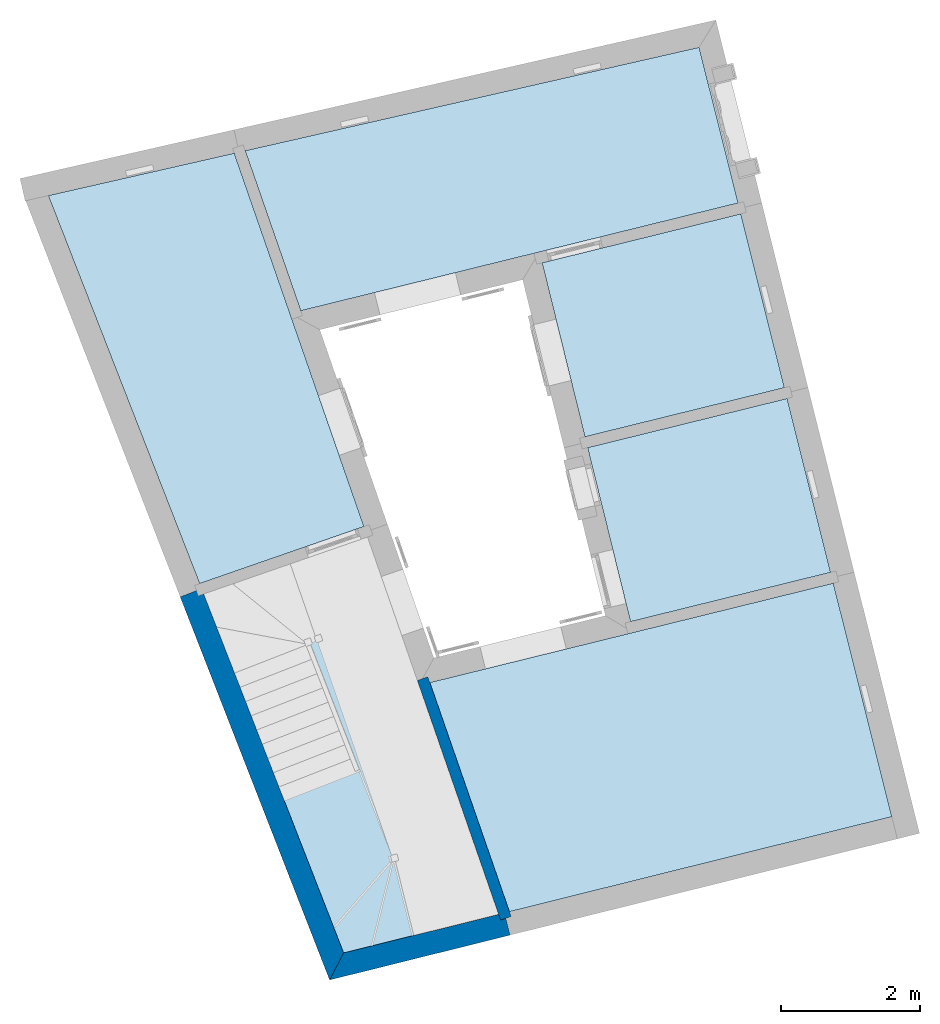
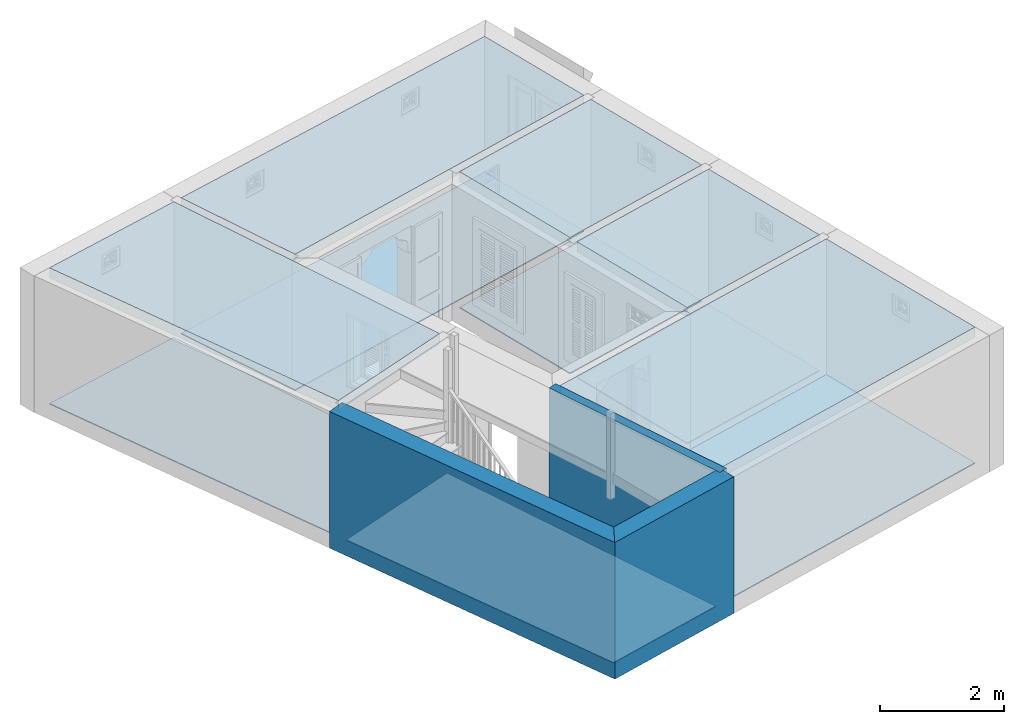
# One storey, part 1 of 12: 11 slabs, 3 walls.
"""IFC4 building model written with IfcOpenShell, lengths in metres."""

import ifcopenshell
import ifcopenshell.guid

model = None  # the IFC model being written
_history = None  # IfcOwnerHistory: only IFC2X3 demands one
_inside = {}  # id of a spatial element -> (the spatial element, [elements in it])
_under = {}  # id of a project, library or spatial element -> (it, [spatial elements below it])
_declared = {}  # id of a project -> (the project, [libraries it declares])
_typed = {}  # id of a type object -> (the type object, [elements of that type])
_made_of = {}  # id of a material, layer set ... -> (it, [elements and type objects made of it])


def new_model(schema):
    """Start an empty IFC model of exactly this schema.

    Asked for "IFC4X3", IfcOpenShell would pick the latest addendum, in which some entities
    have other attributes; the version numbers below select the first issue.
    IFC2X3 requires an IfcOwnerHistory on every rooted entity: one is made here for all.
    """
    global model, _history
    if schema == "IFC4X3":
        model = ifcopenshell.file(schema_version=(4, 3, 0, 0))
    else:
        model = ifcopenshell.file(schema=schema)
    _inside.clear()
    _under.clear()
    _declared.clear()
    _typed.clear()
    _made_of.clear()
    _history = None
    if model.schema == "IFC2X3":
        org = make("IfcOrganization", Name="unknown")
        user = make(
            "IfcPersonAndOrganization",
            ThePerson=make("IfcPerson", FamilyName="unknown"),
            TheOrganization=org,
        )
        app = make(
            "IfcApplication",
            ApplicationDeveloper=org,
            Version="unknown",
            ApplicationFullName="unknown",
            ApplicationIdentifier="unknown",
        )
        _history = make(
            "IfcOwnerHistory",
            OwningUser=user,
            OwningApplication=app,
            ChangeAction="ADDED",
            CreationDate=0,
        )
    return model


def make(cls, **values):
    """One entity of the class cls with the attributes given. An attribute that is None is left unset."""
    return model.create_entity(
        cls, **{name: value for name, value in values.items() if value is not None}
    )


def rooted(cls, **values):
    """An entity with a GlobalId (a new one), such as an element, a storey or a relation."""
    return make(cls, GlobalId=ifcopenshell.guid.new(), OwnerHistory=_history, **values)


def si_unit(unit_type, name, prefix=None):
    """IfcSIUnit, for example si_unit("LENGTHUNIT", "METRE", prefix="MILLI")."""
    return make("IfcSIUnit", UnitType=unit_type, Prefix=prefix, Name=name)


def assignment(units):
    """IfcUnitAssignment: the units of a project."""
    return None if units is None else make("IfcUnitAssignment", Units=units)


def point(xyz):
    """IfcCartesianPoint."""
    return None if xyz is None else make("IfcCartesianPoint", Coordinates=xyz)


def direction(xyz):
    """IfcDirection."""
    return None if xyz is None else make("IfcDirection", DirectionRatios=xyz)


def frame(location, z_axis=None, x_axis=None):
    """IfcAxis2Placement3D, a coordinate frame: its origin and axes. An axis left out is left unset."""
    return make(
        "IfcAxis2Placement3D",
        Location=point(location),
        Axis=direction(z_axis),
        RefDirection=direction(x_axis),
    )


def origin_with_axes():
    """The frame at (0, 0, 0) with the z axis (0, 0, 1) and the x axis (1, 0, 0) written out."""
    return frame((0.0, 0.0, 0.0), z_axis=(0.0, 0.0, 1.0), x_axis=(1.0, 0.0, 0.0))


def place(relative_to, where):
    """IfcLocalPlacement: puts the frame where relative to a parent placement (None: the world)."""
    return make(
        "IfcLocalPlacement", PlacementRelTo=relative_to, RelativePlacement=where
    )


def context(
    kind, dimensions, precision=None, world=None, true_north=None, identifier=None
):
    """IfcGeometricRepresentationContext, for example the 3D "Model" context."""
    return make(
        "IfcGeometricRepresentationContext",
        ContextIdentifier=identifier,
        ContextType=kind,
        CoordinateSpaceDimension=dimensions,
        Precision=precision,
        WorldCoordinateSystem=world,
        TrueNorth=true_north,
    )


def subcontext(parent, identifier, kind, view, scale=None):
    """IfcGeometricRepresentationSubContext, for example "Body" below "Model"."""
    return make(
        "IfcGeometricRepresentationSubContext",
        ContextIdentifier=identifier,
        ContextType=kind,
        ParentContext=parent,
        TargetScale=scale,
        TargetView=view,
    )


def project(units=None, contexts=None):
    """IfcProject with its units and contexts."""
    return rooted(
        "IfcProject",
        Name="project",
        RepresentationContexts=contexts,
        UnitsInContext=assignment(units),
    )


def spatial(cls, under=None, at=None, **own):
    """A site, building, storey or space (cls), placed at a placement, below another one or the project."""
    s = rooted(cls, ObjectPlacement=at, **own)
    if under is not None:
        _under.setdefault(under.id(), (under, []))[1].append(s)
    return s


def polyline(points):
    """IfcPolyline through the points."""
    return make("IfcPolyline", Points=[point(p) for p in points])


def outline(outer, holes=None, kind="AREA"):
    """IfcArbitraryClosedProfileDef: a profile drawn as a closed curve; with holes, ...WithVoids."""
    if holes is None:
        return make("IfcArbitraryClosedProfileDef", ProfileType=kind, OuterCurve=outer)
    return make(
        "IfcArbitraryProfileDefWithVoids",
        ProfileType=kind,
        OuterCurve=outer,
        InnerCurves=holes,
    )


def extrude(swept, where, along, depth):
    """IfcExtrudedAreaSolid: the profile swept, set in the frame where, extruded along a direction by depth."""
    return make(
        "IfcExtrudedAreaSolid",
        SweptArea=swept,
        Position=where,
        ExtrudedDirection=direction(along),
        Depth=depth,
    )


def shape(context_of_items, identifier, shape_type, items):
    """IfcShapeRepresentation: the items that make up one representation, for example the "Body"."""
    return make(
        "IfcShapeRepresentation",
        ContextOfItems=context_of_items,
        RepresentationIdentifier=identifier,
        RepresentationType=shape_type,
        Items=items,
    )


def material(Name=None, Category=None):
    """IfcMaterial."""
    return make("IfcMaterial", Name=Name, Category=Category)


def layer(
    of_material, thickness, ventilated=None, Name=None, Category=None, Priority=None
):
    """IfcMaterialLayer: one layer of a wall or slab, of a material (None: an air gap)."""
    return make(
        "IfcMaterialLayer",
        Material=of_material,
        LayerThickness=thickness,
        IsVentilated=ventilated,
        Name=Name,
        Category=Category,
        Priority=Priority,
    )


def layer_set(layers, Name=None):
    """IfcMaterialLayerSet."""
    return make("IfcMaterialLayerSet", MaterialLayers=layers, LayerSetName=Name)


def layer_usage(for_layer_set, set_direction, sense, offset, extent=None):
    """IfcMaterialLayerSetUsage: how a layer set lies in its element."""
    return make(
        "IfcMaterialLayerSetUsage",
        ForLayerSet=for_layer_set,
        LayerSetDirection=set_direction,
        DirectionSense=sense,
        OffsetFromReferenceLine=offset,
        ReferenceExtent=extent,
    )


def made_of(thing, what):
    """Note that an element or type object is made of a material, layer set ...; save() writes the relation."""
    if what is not None:
        _made_of.setdefault(what.id(), (what, []))[1].append(thing)
    return thing


def type_object(cls, material=None, **own):
    """A type object (cls), such as IfcWallType, which elements share."""
    return made_of(rooted(cls, **own), material)


def element(
    cls,
    number,
    at=None,
    inside=None,
    cuts=None,
    type_object=None,
    material=None,
    context=None,
    identifier="Body",
    shape_type=None,
    held_by="IfcProductDefinitionShape",
    body=None,
    shapes=None,
    **own,
):
    """One element of the class cls, such as IfcWall. Its Tag is "e" and its number.

    at: its placement. inside: the storey or other place that contains it. cuts: it is an
    opening in that element (IfcRelVoidsElement). A single representation is given by context,
    identifier, shape_type and body (its items); several are given by shapes. held_by: the class
    of the entity that holds the representations. save() writes the other relations.
    """
    e = rooted(cls, Tag="e%d" % number, ObjectPlacement=at, **own)
    if body is not None:
        shapes = [shape(context, identifier, shape_type, body)]
    if shapes is not None:
        e.Representation = make(held_by, Representations=shapes)
    if inside is not None:
        _inside.setdefault(inside.id(), (inside, []))[1].append(e)
    if cuts is not None:
        rooted(
            "IfcRelVoidsElement", RelatingBuildingElement=cuts, RelatedOpeningElement=e
        )
    if type_object is not None:
        _typed.setdefault(type_object.id(), (type_object, []))[1].append(e)
    return made_of(e, material)


def aggregate(whole, parts):
    """IfcRelAggregates: a whole, such as a stair, and the parts it consists of."""
    return rooted("IfcRelAggregates", RelatingObject=whole, RelatedObjects=parts)


def save(model, path):
    """Write the relations noted so far, then the file.

    IfcRelAggregates (storeys below a building ...), IfcRelContainedInSpatialStructure (elements
    in a storey), IfcRelDefinesByType, IfcRelAssociatesMaterial and IfcRelDeclares: one each for
    every whole, place, type object, material and project.
    """
    for whole, parts in _under.values():
        aggregate(whole, parts)
    for where, things in _inside.values():
        rooted(
            "IfcRelContainedInSpatialStructure",
            RelatedElements=things,
            RelatingStructure=where,
        )
    for kind, things in _typed.values():
        rooted("IfcRelDefinesByType", RelatedObjects=things, RelatingType=kind)
    for what, things in _made_of.values():
        rooted("IfcRelAssociatesMaterial", RelatedObjects=things, RelatingMaterial=what)
    for by, libraries in _declared.values():
        rooted("IfcRelDeclares", RelatingContext=by, RelatedDefinitions=libraries)
    model.write(path)


model = new_model("IFC4")

# Units and contexts
model_context = context("Model", 3, world=origin_with_axes())
body_context = subcontext(model_context, "Body", "Model", "MODEL_VIEW")
ifc_project = project(units=[si_unit("PLANEANGLEUNIT", "RADIAN"), si_unit("MASSUNIT", "GRAM", prefix="KILO"), si_unit("FORCEUNIT", "NEWTON", prefix="KILO"), si_unit("LENGTHUNIT", "METRE"), si_unit("AREAUNIT", "SQUARE_METRE"), si_unit("VOLUMEUNIT", "CUBIC_METRE")], contexts=[model_context, model_context])

# Site, building, storey
site_placement = place(None, origin_with_axes())
site = spatial("IfcSite", under=ifc_project, at=site_placement, Name="Site plot-1", CompositionType="ELEMENT")
building_placement = place(None, origin_with_axes())
building = spatial("IfcBuilding", under=site, at=building_placement, Name="Building plot-1", CompositionType="ELEMENT")
storey_placement = place(None, origin_with_axes())
storey = spatial("IfcBuildingStorey", under=building, at=storey_placement, Name="plot-1 0", CompositionType="ELEMENT", Elevation=0.0)

# Slabs
slab_1_placement = place(storey_placement, frame((-0.917987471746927, 13.9002515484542, 0.0)))
element("IfcSlab", 1, at=slab_1_placement, inside=storey, Name="My Slab", ObjectType="Slab", PredefinedType="FLOOR", context=body_context, shape_type="SweptSolid", body=[
    extrude(outline(polyline([(0.0, 0.0), (2.23128819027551, 0.55459346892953), (0.344294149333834, 5.98775818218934), (-2.01554332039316, 5.16816233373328), (0.0, 0.0)])), origin_with_axes(), (0.0, 0.0, 1.0), 0.02),
])
slab_2_placement = place(storey_placement, frame((-0.626187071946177, 20.0391533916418, 2.5)))
element("IfcSlab", 2, at=slab_2_placement, inside=storey, Name="My Slab", ObjectType="Slab", PredefinedType="FLOOR", context=body_context, shape_type="SweptSolid", body=[
    extrude(outline(polyline([(0.0, 0.0), (-1.86694206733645, 5.37542967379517), (-4.54445649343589, 4.76556089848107), (-2.36551902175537, -0.82156910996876), (0.0, 0.0)])), origin_with_axes(), (0.0, 0.0, 1.0), 0.2),
])
slab_3_placement = place(storey_placement, frame((-0.626187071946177, 20.0391533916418, 0.0)))
element("IfcSlab", 3, at=slab_3_placement, inside=storey, Name="My Slab", ObjectType="Slab", PredefinedType="FLOOR", context=body_context, shape_type="SweptSolid", body=[
    extrude(outline(polyline([(0.0, 0.0), (-1.86694206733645, 5.37542967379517), (-4.54445649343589, 4.76556089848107), (-2.36551902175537, -0.82156910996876), (0.0, 0.0)])), origin_with_axes(), (0.0, 0.0, 1.0), 0.02),
])
slab_4_placement = place(storey_placement, frame((-1.53560668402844, 23.1452948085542, 2.5)))
element("IfcSlab", 4, at=slab_4_placement, inside=storey, Name="My Slab", ObjectType="Slab", PredefinedType="FLOOR", context=body_context, shape_type="SweptSolid", body=[
    extrude(outline(polyline([(0.0, 0.0), (6.29750658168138, 1.55163702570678), (5.73587458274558, 3.79387158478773), (-0.800563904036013, 2.30503936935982), (0.0, 0.0)])), origin_with_axes(), (0.0, 0.0, 1.0), 0.2),
])
slab_5_placement = place(storey_placement, frame((-1.53560668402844, 23.1452948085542, 0.0)))
element("IfcSlab", 5, at=slab_5_placement, inside=storey, Name="My Slab", ObjectType="Slab", PredefinedType="FLOOR", context=body_context, shape_type="SweptSolid", body=[
    extrude(outline(polyline([(0.0, 0.0), (6.29750658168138, 1.55163702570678), (5.73587458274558, 3.79387158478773), (-0.800563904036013, 2.30503936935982), (0.0, 0.0)])), origin_with_axes(), (0.0, 0.0, 1.0), 0.02),
])
slab_6_placement = place(storey_placement, frame((5.42786729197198, 22.0381532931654, 2.5)))
element("IfcSlab", 6, at=slab_6_placement, inside=storey, Name="My Slab", ObjectType="Slab", PredefinedType="FLOOR", context=body_context, shape_type="SweptSolid", body=[
    extrude(outline(polyline([(0.0, 0.0), (-0.627091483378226, 2.50357208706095), (-3.48872646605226, 1.79849639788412), (-2.87128758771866, -0.707453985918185), (0.0, 0.0)])), origin_with_axes(), (0.0, 0.0, 1.0), 0.2),
])
slab_7_placement = place(storey_placement, frame((5.42786729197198, 22.0381532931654, 0.0)))
element("IfcSlab", 7, at=slab_7_placement, inside=storey, Name="My Slab", ObjectType="Slab", PredefinedType="FLOOR", context=body_context, shape_type="SweptSolid", body=[
    extrude(outline(polyline([(0.0, 0.0), (-0.627091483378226, 2.50357208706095), (-3.48872646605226, 1.79849639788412), (-2.87128758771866, -0.707453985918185), (0.0, 0.0)])), origin_with_axes(), (0.0, 0.0, 1.0), 0.02),
])
slab_8_placement = place(storey_placement, frame((0.32336666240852, 17.7928092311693, 2.5)))
element("IfcSlab", 8, at=slab_8_placement, inside=storey, Name="My Slab", ObjectType="Slab", PredefinedType="FLOOR", context=body_context, shape_type="SweptSolid", body=[
    extrude(outline(polyline([(0.0, 0.0), (1.14584989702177, -3.29921085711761), (6.6514852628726, -1.93076843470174), (5.80934393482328, 1.43135906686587), (0.0, 0.0)])), origin_with_axes(), (0.0, 0.0, 1.0), 0.2),
])
slab_9_placement = place(storey_placement, frame((0.32336666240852, 17.7928092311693, 0.0)))
element("IfcSlab", 9, at=slab_9_placement, inside=storey, Name="My Slab", ObjectType="Slab", PredefinedType="FLOOR", context=body_context, shape_type="SweptSolid", body=[
    extrude(outline(polyline([(0.0, 0.0), (1.14584989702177, -3.29921085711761), (6.6514852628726, -1.93076843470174), (5.80934393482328, 1.43135906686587), (0.0, 0.0)])), origin_with_axes(), (0.0, 0.0, 1.0), 0.02),
])
slab_10_placement = place(storey_placement, frame((3.21229608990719, 18.6693950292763, 2.5)))
element("IfcSlab", 10, at=slab_10_placement, inside=storey, Name="My Slab", ObjectType="Slab", PredefinedType="FLOOR", context=body_context, shape_type="SweptSolid", body=[
    extrude(outline(polyline([(0.0, 0.0), (2.8815385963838, 0.709979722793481), (2.25444711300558, 3.21355180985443), (-0.617438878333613, 2.5059503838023), (0.0, 0.0)])), origin_with_axes(), (0.0, 0.0, 1.0), 0.2),
])
slab_11_placement = place(storey_placement, frame((3.21229608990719, 18.6693950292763, 0.0)))
element("IfcSlab", 11, at=slab_11_placement, inside=storey, Name="My Slab", ObjectType="Slab", PredefinedType="FLOOR", context=body_context, shape_type="SweptSolid", body=[
    extrude(outline(polyline([(0.0, 0.0), (2.8815385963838, 0.709979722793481), (2.25444711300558, 3.21355180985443), (-0.617438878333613, 2.5059503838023), (0.0, 0.0)])), origin_with_axes(), (0.0, 0.0, 1.0), 0.02),
])

# Walls
ifc_material_1 = material(Name="Masonry")
ifc_layer_1 = layer(ifc_material_1, 0.33, ventilated=False)
ifc_layer_set_1 = layer_set([ifc_layer_1], Name="party_0.08_0.25")
ifc_layer_usage_1 = layer_usage(ifc_layer_set_1, "AXIS2", "POSITIVE", -0.25)
wall_type_1 = type_object("IfcWallType", Name="party_0.08_0.25", PredefinedType="SOLIDWALL", material=ifc_layer_set_1)
wall_1_placement = place(storey_placement, frame((-3.03824364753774, 19.1167336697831, 0.0), z_axis=(0.0, 0.0, 1.0), x_axis=(0.363339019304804, -0.931656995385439, 0.0)))
element("IfcWall", 12, at=wall_1_placement, inside=storey, type_object=wall_type_1, material=ifc_layer_usage_1, Name="party", context=body_context, shape_type="SweptSolid", body=[
    extrude(outline(polyline([(1.26611194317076e-15, 0.0799999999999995), (-4.59242549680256e-17, -0.249999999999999), (5.92052541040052, -0.25), (5.63034385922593, 0.0799999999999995), (1.26611194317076e-15, 0.0799999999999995)])), origin_with_axes(), (0.0, 0.0, 1.0), 2.7),
])
wall_2_placement = place(storey_placement, frame((-0.966960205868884, 13.8056451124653, 0.0), z_axis=(0.0, 0.0, 1.0), x_axis=(0.970472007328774, 0.241213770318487, 0.0)))
element("IfcWall", 13, at=wall_2_placement, inside=storey, type_object=wall_type_1, material=ifc_layer_usage_1, Name="party", context=body_context, shape_type="SweptSolid", body=[
    extrude(outline(polyline([(0.0703470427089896, 0.0800000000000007), (-0.219834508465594, -0.25), (2.45712801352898, -0.25), (2.45712801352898, 0.0800000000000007), (0.0703470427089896, 0.0800000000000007)])), origin_with_axes(), (0.0, 0.0, 1.0), 2.7),
])
ifc_material_2 = material(Name="Masonry")
ifc_layer_2 = layer(ifc_material_2, 0.16, ventilated=False)
ifc_layer_set_2 = layer_set([ifc_layer_2], Name="interior_0.08_0.08")
ifc_layer_usage_2 = layer_usage(ifc_layer_set_2, "AXIS2", "POSITIVE", -0.08)
wall_type_2 = type_object("IfcWallType", Name="interior_0.08_0.08", PredefinedType="SOLIDWALL", material=ifc_layer_set_2)
wall_3_placement = place(storey_placement, frame((1.41761374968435, 14.3983382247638, 0.0), z_axis=(0.0, 0.0, 1.0), x_axis=(-0.328085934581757, 0.94464788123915, 0.0)))
element("IfcWall", 14, at=wall_3_placement, inside=storey, type_object=wall_type_2, material=ifc_layer_usage_2, Name="interior", context=body_context, shape_type="SweptSolid", body=[
    extrude(outline(polyline([(4.04257239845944e-17, 0.08), (-3.06285495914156e-17, -0.08), (3.65336914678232, -0.0800000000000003), (3.65336914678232, 0.0800000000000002), (4.04257239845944e-17, 0.08)])), origin_with_axes(), (0.0, 0.0, 1.0), 2.7),
])

save(model, "model.ifc")
